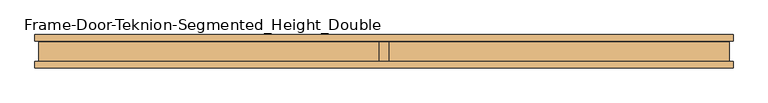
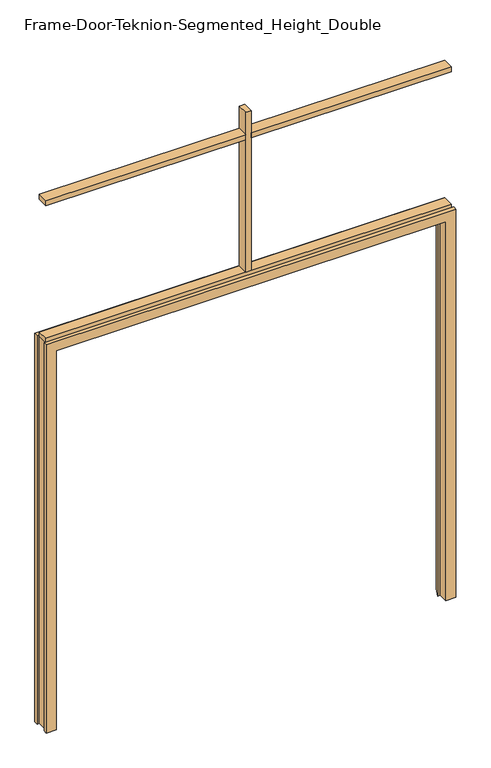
"""IFC4 building model written with IfcOpenShell, lengths in millimetres: door geometry, Frame-Door-Teknion-Segmented_Height_Double : FPFDS."""

from ifc_helpers import new_model, si_unit, frame, origin, place, context, project, spatial, polyline, outline, extrude, faceted_brep, source, transform, mapped, element, save


def frame_door_teknion_segmented_height_double_338a7b71(model_context):
    return source(origin(), model_context, "Body", "SolidModel", [
        faceted_brep([(-1012.3807565, -50.8, 0.0), (-1063.8157565, -50.8, 0.0), (-1063.8157565, -31.5339997, 0.0), (-1052.8101562, -31.5339997, 0.0), (-1052.8101562, 31.5339997, 0.0), (-1063.8157565, 31.5339997, 0.0), (-1063.8157565, 50.8, 0.0), (-1021.9054518, 50.8, 0.0), (-999.4583342, -0.7133435, 0.0), (-1012.3807565, -0.7133435, 0.0), (-1012.3807565, -0.7133435, 2082.165), (-1012.3807565, -50.8, 2082.165), (-999.4583342, -0.7133435, 2069.2425776), (999.4583342, -0.7133435, 2069.2425776), (999.4583342, -0.7133435, 0.0), (1012.3807565, -0.7133435, 0.0), (1012.3807565, -0.7133435, 2082.165), (-1021.9054518, 50.8, 2091.6896953), (-1063.8157565, 50.8, 2133.6), (1063.8157565, 50.8, 2133.6), (1063.8157565, 50.8, 0.0), (1021.9054518, 50.8, 0.0), (1021.9054518, 50.8, 2091.6896953), (-1063.8157565, 31.5339997, 2133.6), (-1052.8101562, 31.5339997, 2122.5943997), (1052.8101563, 31.5339997, 2122.5943997), (1052.8101563, 31.5339997, 0.0), (1063.8157565, 31.5339997, 0.0), (1063.8157565, 31.5339997, 2133.6), (-1052.8101562, -31.5339997, 2122.5943997), (-1063.8157565, -31.5339997, 2133.6), (1063.8157565, -31.5339997, 2133.6), (1063.8157565, -31.5339997, 0.0), (1052.8101563, -31.5339997, 0.0), (1052.8101563, -31.5339997, 2122.5943997), (-1063.8157565, -50.8, 2133.6), (1012.3807565, -50.8, 2082.165), (1012.3807565, -50.8, 0.0), (1063.8157565, -50.8, 0.0), (1063.8157565, -50.8, 2133.6)], [[[0, 1, 2, 3, 4, 5, 6, 7, 8, 9]], [[9, 10, 11, 0]], [[8, 12, 13, 14, 15, 16, 10, 9]], [[7, 17, 12, 8]], [[6, 18, 19, 20, 21, 22, 17, 7]], [[5, 23, 18, 6]], [[4, 24, 25, 26, 27, 28, 23, 5]], [[3, 29, 24, 4]], [[2, 30, 31, 32, 33, 34, 29, 3]], [[1, 35, 30, 2]], [[0, 11, 36, 37, 38, 39, 35, 1]], [[37, 15, 14, 21, 20, 27, 26, 33, 32, 38]], [[16, 15, 37, 36]], [[22, 21, 14, 13]], [[28, 27, 20, 19]], [[34, 33, 26, 25]], [[39, 38, 32, 31]], [[10, 16, 36, 11]], [[17, 22, 13, 12]], [[23, 28, 19, 18]], [[29, 34, 25, 24]], [[35, 39, 31, 30]]]),
        extrude(outline(polyline([(-13.9898437, 28.971875), (13.9898438, 28.971875), (13.9898438, -28.971875), (-13.9898437, -28.971875), (-13.9898437, 28.971875)])), frame((0.0, 0.0, 2150.745), z_axis=(0.0, 0.0, 1.0), x_axis=(1.0, 0.0, 0.0)), (0.0, 0.0, 1.0), 878.205),
        extrude(outline(polyline([(-1052.8101562, 29.21), (1052.8101563, 29.21), (1052.8101563, -29.21), (-1052.8101562, -29.21), (-1052.8101562, 29.21)])), frame((0.0, 0.0, 2122.805), z_axis=(0.0, 0.0, 1.0), x_axis=(1.0, 0.0, 0.0)), (0.0, 0.0, 1.0), 27.94),
        extrude(outline(polyline([(1052.8101563, -29.21), (13.9898437, -29.21), (13.9898437, 29.21), (1052.8101563, 29.21), (1052.8101563, -29.21)])), frame((0.0, 0.0, 2879.725), z_axis=(0.0, 0.0, 1.0), x_axis=(1.0, 0.0, 0.0)), (0.0, 0.0, 1.0), 27.94),
        extrude(outline(polyline([(-13.9898437, -29.21), (-1052.8101562, -29.21), (-1052.8101562, 29.21), (-13.9898437, 29.21), (-13.9898437, -29.21)])), frame((0.0, 0.0, 2879.725), z_axis=(0.0, 0.0, 1.0), x_axis=(1.0, 0.0, 0.0)), (0.0, 0.0, 1.0), 27.94),
    ])


if __name__ == "__main__":
    model = new_model("IFC4")
    model_context = context("Model", 3, world=origin())
    ifc_project = project(units=[si_unit("LENGTHUNIT", "METRE", prefix="MILLI")], contexts=[model_context])
    site = spatial("IfcSite", under=ifc_project)
    building = spatial("IfcBuilding", under=site)
    placement = place(None, origin())
    frame_door_teknion_segmented_height_double_shape = frame_door_teknion_segmented_height_double_338a7b71(model_context)
    element("IfcDoor", 1, ObjectType="Frame-Door-Teknion-Segmented_Height_Double : FPFDS", at=placement, inside=building, context=model_context, shape_type="MappedRepresentation", body=[
        mapped(frame_door_teknion_segmented_height_double_shape, transform((0.0, 0.0, 0.0), x_axis=(1.0, 0.0, 0.0), y_axis=(0.0, 1.0, 0.0), z_axis=(0.0, 0.0, 1.0))),
    ])
    save(model, "model.ifc")
